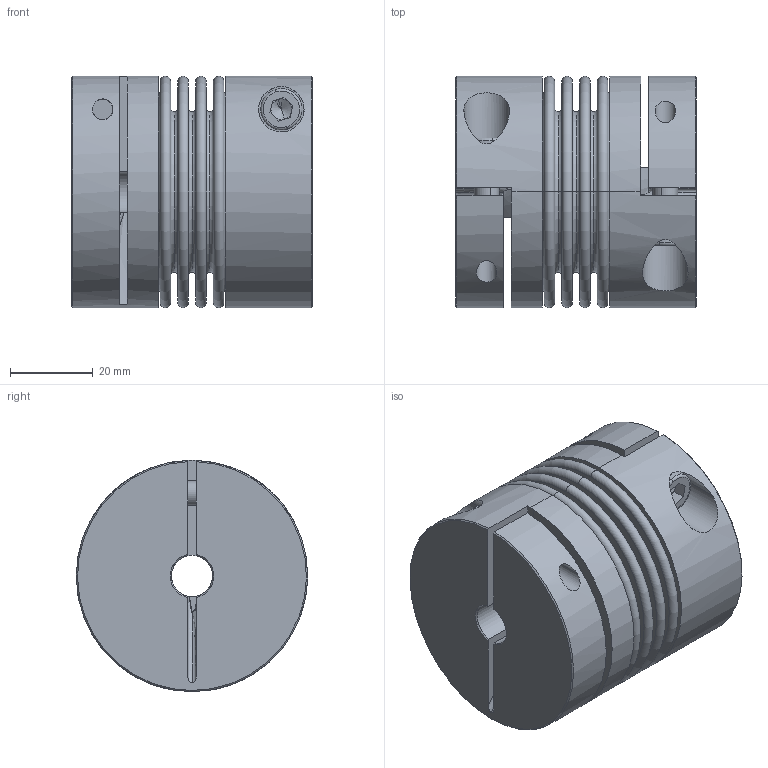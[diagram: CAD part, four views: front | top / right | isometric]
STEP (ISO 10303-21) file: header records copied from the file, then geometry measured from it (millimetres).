
FILE_DESCRIPTION (( 'STEP AP214' ), '1' );
FILE_NAME ('KB4C-30-58.STEP', '2011-01-19T17:03:28', ( '' ), ( 'KAPCAD' ), 'SwSTEP 2.0', 'SolidWorks 2002296', '' );
FILE_SCHEMA (( 'AUTOMOTIVE_DESIGN' ));
Length unit declared in the file: millimetre
Products named in the file (4): KB4C-30-58; BK30_Standard; KN30C_Standard; Socket Head Cap Screw_DIN_DIN 912 M6 x 20 --- 20N
Assembly tree (5 placements, depth 2):
  KB4C-30-58
    Socket Head Cap Screw_DIN_DIN 912 M6 x 20 --- 20N  x2
    KN30C_Standard  x2
    BK30_Standard
Bounding box: 58.25 x 56 x 56 mm (x, y, z)
Volume: 97168.3 mm3; surface area: 51081.1 mm2
Topology: 5 solids, 5 shells, 182 faces, 416 edges, 260 vertices
Faces by surface type: plane 70, torus 56, cylinder 40, cone 16
Entity records: 3843 total; most frequent: CARTESIAN_POINT 776, DIRECTION 718, ORIENTED_EDGE 552, AXIS2_PLACEMENT_3D 324, EDGE_CURVE 276, CIRCLE 190, VERTEX_POINT 174, EDGE_LOOP 152
